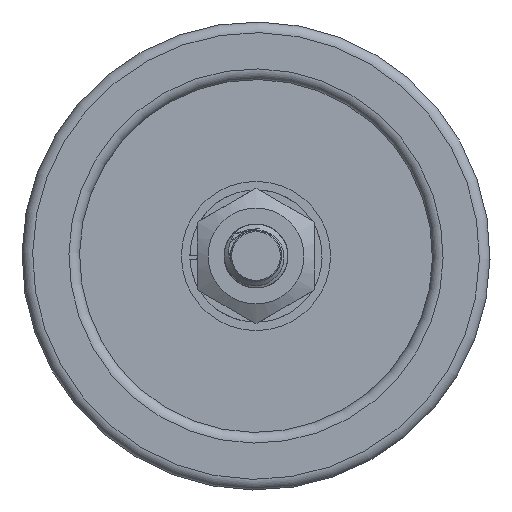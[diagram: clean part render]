
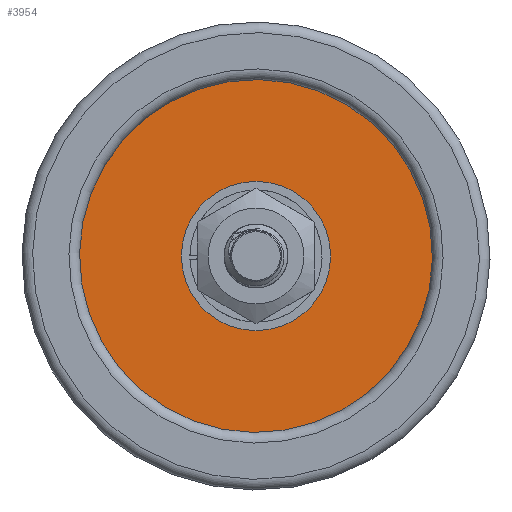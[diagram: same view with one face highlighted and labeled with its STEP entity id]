
A CAD part, front view. The second image highlights one B-rep face of the part: STEP entity #3954.
In plain terms, the highlighted planar face has unit normal (0, -1, 0).
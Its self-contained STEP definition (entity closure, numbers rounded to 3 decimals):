
#205=B_SPLINE_CURVE_WITH_KNOTS('',3,(#8753,#8754,#8755,#8756,#8757,#8758,
#8759),.UNSPECIFIED.,.F.,.F.,(4,3,4),(-0.247,-0.105,
0.),.UNSPECIFIED.);
#213=B_SPLINE_CURVE_WITH_KNOTS('',3,(#10316,#10317,#10318,#10319,#10320,
#10321,#10322),.UNSPECIFIED.,.F.,.F.,(4,3,4),(-0.248,-0.118,
0.),.UNSPECIFIED.);
#1010=FACE_BOUND('',#1367,.T.);
#1113=FACE_OUTER_BOUND('',#1366,.T.);
#1366=EDGE_LOOP('',(#2885));
#1367=EDGE_LOOP('',(#2886,#2887,#2888,#2889));
#1601=CIRCLE('',#4152,8.275);
#1631=CIRCLE('',#4225,1.5);
#1632=CIRCLE('',#4227,1.2);
#1720=VERTEX_POINT('',#5191);
#1774=VERTEX_POINT('',#8621);
#1775=VERTEX_POINT('',#8752);
#1795=VERTEX_POINT('',#10182);
#1796=VERTEX_POINT('',#10315);
#2111=EDGE_CURVE('',#1720,#1720,#1601,.T.);
#2183=EDGE_CURVE('',#1774,#1775,#205,.T.);
#2217=EDGE_CURVE('',#1795,#1774,#1631,.T.);
#2218=EDGE_CURVE('',#1796,#1795,#213,.T.);
#2219=EDGE_CURVE('',#1775,#1796,#1632,.T.);
#2885=ORIENTED_EDGE('',*,*,#2111,.T.);
#2886=ORIENTED_EDGE('',*,*,#2183,.F.);
#2887=ORIENTED_EDGE('',*,*,#2217,.F.);
#2888=ORIENTED_EDGE('',*,*,#2218,.F.);
#2889=ORIENTED_EDGE('',*,*,#2219,.F.);
#3858=PLANE('',#4226);
#3954=ADVANCED_FACE('',(#1113,#1010),#3858,.F.);
#4152=AXIS2_PLACEMENT_3D('',#5192,#4462,#4463);
#4225=AXIS2_PLACEMENT_3D('',#10313,#4638,#4639);
#4226=AXIS2_PLACEMENT_3D('',#10314,#4640,#4641);
#4227=AXIS2_PLACEMENT_3D('',#10323,#4642,#4643);
#4462=DIRECTION('center_axis',(0.,-1.,0.));
#4463=DIRECTION('ref_axis',(0.487,0.,-0.873));
#4638=DIRECTION('center_axis',(0.,-1.,0.));
#4639=DIRECTION('ref_axis',(-1.,0.,0.));
#4640=DIRECTION('center_axis',(0.,1.,0.));
#4641=DIRECTION('ref_axis',(1.,0.,0.));
#4642=DIRECTION('center_axis',(0.,-1.,0.));
#4643=DIRECTION('ref_axis',(0.,0.,
-1.));
#5191=CARTESIAN_POINT('',(-15.433,-47.659,9.937));
#5192=CARTESIAN_POINT('Origin',(-11.403,-47.659,2.71));
#8621=CARTESIAN_POINT('',(-12.774,-47.659,3.32));
#8752=CARTESIAN_POINT('',(-11.612,-47.659,1.528));
#8753=CARTESIAN_POINT('Ctrl Pts',(-12.774,-47.659,3.32));
#8754=CARTESIAN_POINT('Ctrl Pts',(-12.918,-47.659,2.867));
#8755=CARTESIAN_POINT('Ctrl Pts',(-12.828,-47.659,2.341));
#8756=CARTESIAN_POINT('Ctrl Pts',(-12.525,-47.659,1.981));
#8757=CARTESIAN_POINT('Ctrl Pts',(-12.301,-47.659,1.715));
#8758=CARTESIAN_POINT('Ctrl Pts',(-11.961,-47.659,1.544));
#8759=CARTESIAN_POINT('Ctrl Pts',(-11.612,-47.659,1.527));
#10182=CARTESIAN_POINT('',(-11.561,-47.659,4.201));
#10313=CARTESIAN_POINT('Origin',(-11.403,-47.659,2.71));
#10314=CARTESIAN_POINT('Origin',(-11.403,-47.659,2.71));
#10315=CARTESIAN_POINT('',(-10.215,-47.659,2.544));
#10316=CARTESIAN_POINT('Ctrl Pts',(-10.215,-47.659,
2.544));
#10317=CARTESIAN_POINT('Ctrl Pts',(-10.098,-47.659,
2.958));
#10318=CARTESIAN_POINT('Ctrl Pts',(-10.222,-47.659,
3.427));
#10319=CARTESIAN_POINT('Ctrl Pts',(-10.509,-47.659,
3.743));
#10320=CARTESIAN_POINT('Ctrl Pts',(-10.772,-47.659,4.032));
#10321=CARTESIAN_POINT('Ctrl Pts',(-11.167,-47.659,
4.196));
#10322=CARTESIAN_POINT('Ctrl Pts',(-11.561,-47.659,
4.202));
#10323=CARTESIAN_POINT('Origin',(-11.403,-47.659,2.71));
